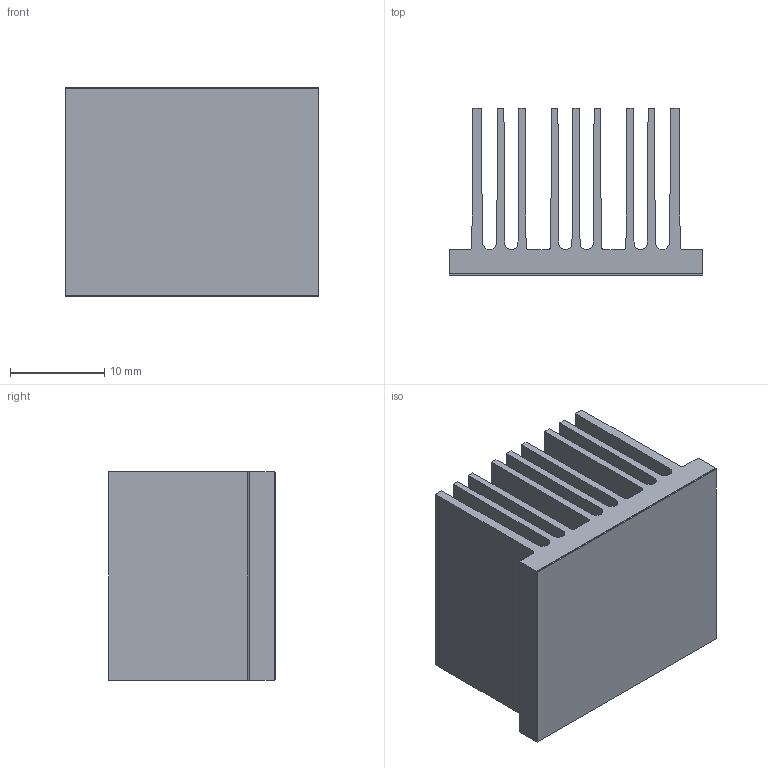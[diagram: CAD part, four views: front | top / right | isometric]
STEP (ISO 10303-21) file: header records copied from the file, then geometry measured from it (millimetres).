
FILE_DESCRIPTION (( 'STEP AP214' ), '1' );
FILE_NAME ('INH27001-18-2.6.STEP', '2023-02-16T16:09:07', ( '' ), ( '' ), 'SwSTEP 2.0', 'SolidWorks 2020', '' );
FILE_SCHEMA (( 'AUTOMOTIVE_DESIGN' ));
Length unit declared in the file: millimetre
Products named in the file (1): INH27001-18-2.6
Bounding box: 26.92 x 17.73 x 22.2 mm (x, y, z)
Volume: 4132.3 mm3; surface area: 8738.3 mm2
Topology: 2 solids, 2 shells, 64 faces, 180 edges, 120 vertices
Faces by surface type: plane 46, cylinder 18
Entity records: 2807 total; most frequent: CARTESIAN_POINT 365, ORIENTED_EDGE 360, DIRECTION 346, EDGE_CURVE 180, LINE 144, VECTOR 144, VERTEX_POINT 120, AXIS2_PLACEMENT_3D 101
